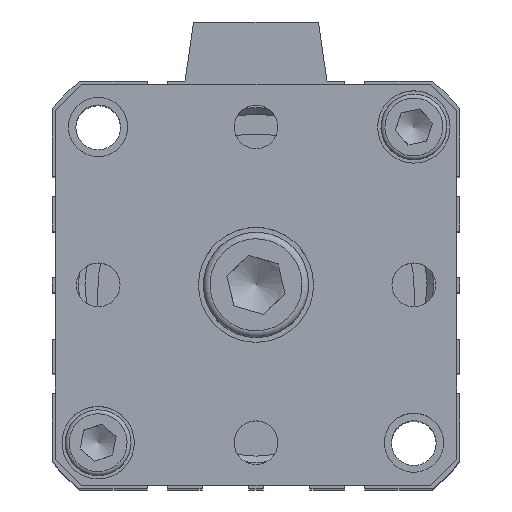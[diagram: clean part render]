
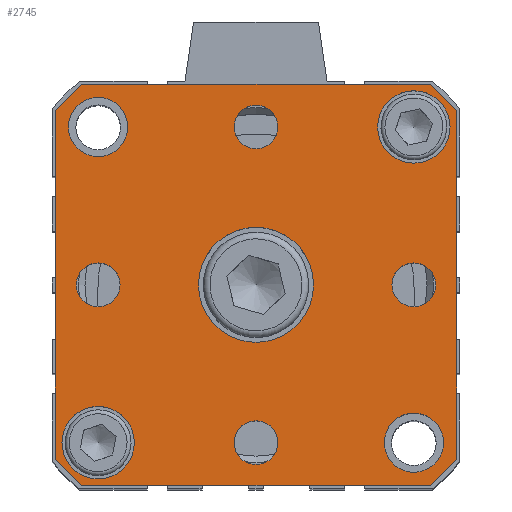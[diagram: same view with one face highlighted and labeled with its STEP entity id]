
A CAD part, top view. The second image highlights one B-rep face of the part: STEP entity #2745.
In plain terms, the highlighted planar face has unit normal (0, 0, 1).
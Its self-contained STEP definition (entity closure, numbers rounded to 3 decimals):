
#365=CARTESIAN_POINT('',(-37.557,28.294,111.6));
#366=VERTEX_POINT('',#365);
#367=CARTESIAN_POINT('',(-33.557,32.294,111.6));
#368=VERTEX_POINT('',#367);
#369=CARTESIAN_POINT('',(-37.557,28.294,111.6));
#370=DIRECTION('',(0.707,0.707,0.0));
#371=VECTOR('',#370,5.657);
#372=LINE('',#369,#371);
#373=EDGE_CURVE('',#366,#368,#372,.T.);
#417=CARTESIAN_POINT('',(19.443,32.294,111.6));
#418=VERTEX_POINT('',#417);
#419=CARTESIAN_POINT('',(-33.557,32.294,111.6));
#420=DIRECTION('',(1.0,0.0,0.0));
#421=VECTOR('',#420,53.);
#422=LINE('',#419,#421);
#423=EDGE_CURVE('',#368,#418,#422,.T.);
#440=CARTESIAN_POINT('',(23.443,28.294,111.6));
#441=VERTEX_POINT('',#440);
#442=CARTESIAN_POINT('',(19.443,32.294,111.6));
#443=DIRECTION('',(0.707,-0.707,0.0));
#444=VECTOR('',#443,5.657);
#445=LINE('',#442,#444);
#446=EDGE_CURVE('',#418,#441,#445,.T.);
#464=CARTESIAN_POINT('',(23.443,-24.706,111.6));
#465=VERTEX_POINT('',#464);
#466=CARTESIAN_POINT('',(19.443,-28.706,111.6));
#467=VERTEX_POINT('',#466);
#468=CARTESIAN_POINT('',(23.443,-24.706,111.6));
#469=DIRECTION('',(-0.707,-0.707,0.0));
#470=VECTOR('',#469,5.657);
#471=LINE('',#468,#470);
#472=EDGE_CURVE('',#465,#467,#471,.T.);
#496=CARTESIAN_POINT('',(-33.557,-28.706,111.6));
#497=VERTEX_POINT('',#496);
#498=CARTESIAN_POINT('',(19.443,-28.706,111.6));
#499=DIRECTION('',(-1.0,0.0,0.0));
#500=VECTOR('',#499,53.);
#501=LINE('',#498,#500);
#502=EDGE_CURVE('',#467,#497,#501,.T.);
#519=CARTESIAN_POINT('',(-37.557,-24.706,111.6));
#520=VERTEX_POINT('',#519);
#521=CARTESIAN_POINT('',(-33.557,-28.706,111.6));
#522=DIRECTION('',(-0.707,0.707,0.0));
#523=VECTOR('',#522,5.657);
#524=LINE('',#521,#523);
#525=EDGE_CURVE('',#497,#520,#524,.T.);
#592=CARTESIAN_POINT('',(1.693,1.794,111.6));
#593=VERTEX_POINT('',#592);
#594=CARTESIAN_POINT('',(-7.057,1.794,111.6));
#595=DIRECTION('',(0.0,0.0,-1.0));
#596=DIRECTION('',(1.0,0.0,0.0));
#597=AXIS2_PLACEMENT_3D('',#594,#595,#596);
#598=CIRCLE('',#597,8.75);
#599=EDGE_CURVE('',#593,#593,#598,.T.);
#711=CARTESIAN_POINT('',(-25.557,-22.206,111.6));
#712=VERTEX_POINT('',#711);
#713=CARTESIAN_POINT('',(-31.057,-22.206,111.6));
#714=DIRECTION('',(0.0,0.0,-1.0));
#715=DIRECTION('',(1.0,0.0,0.0));
#716=AXIS2_PLACEMENT_3D('',#713,#714,#715);
#717=CIRCLE('',#716,5.5);
#718=EDGE_CURVE('',#712,#712,#717,.T.);
#813=CARTESIAN_POINT('',(22.443,25.794,111.6));
#814=VERTEX_POINT('',#813);
#815=CARTESIAN_POINT('',(16.943,25.794,111.6));
#816=DIRECTION('',(0.0,0.0,-1.0));
#817=DIRECTION('',(1.0,0.0,0.0));
#818=AXIS2_PLACEMENT_3D('',#815,#816,#817);
#819=CIRCLE('',#818,5.5);
#820=EDGE_CURVE('',#814,#814,#819,.T.);
#890=CARTESIAN_POINT('',(20.266,1.794,111.6));
#891=VERTEX_POINT('',#890);
#892=CARTESIAN_POINT('',(16.943,1.794,111.6));
#893=DIRECTION('',(0.0,0.0,-1.0));
#894=DIRECTION('',(1.0,0.0,0.0));
#895=AXIS2_PLACEMENT_3D('',#892,#893,#894);
#896=CIRCLE('',#895,3.324);
#897=EDGE_CURVE('',#891,#891,#896,.T.);
#931=CARTESIAN_POINT('',(-3.734,-22.206,111.6));
#932=VERTEX_POINT('',#931);
#933=CARTESIAN_POINT('',(-7.057,-22.206,111.6));
#934=DIRECTION('',(0.0,0.0,-1.0));
#935=DIRECTION('',(1.0,0.0,0.0));
#936=AXIS2_PLACEMENT_3D('',#933,#934,#935);
#937=CIRCLE('',#936,3.324);
#938=EDGE_CURVE('',#932,#932,#937,.T.);
#972=CARTESIAN_POINT('',(-27.734,1.794,111.6));
#973=VERTEX_POINT('',#972);
#974=CARTESIAN_POINT('',(-31.057,1.794,111.6));
#975=DIRECTION('',(0.0,0.0,-1.0));
#976=DIRECTION('',(1.0,0.0,0.0));
#977=AXIS2_PLACEMENT_3D('',#974,#975,#976);
#978=CIRCLE('',#977,3.324);
#979=EDGE_CURVE('',#973,#973,#978,.T.);
#1013=CARTESIAN_POINT('',(-3.734,25.794,111.6));
#1014=VERTEX_POINT('',#1013);
#1015=CARTESIAN_POINT('',(-7.057,25.794,111.6));
#1016=DIRECTION('',(0.0,0.0,-1.0));
#1017=DIRECTION('',(1.0,0.0,0.0));
#1018=AXIS2_PLACEMENT_3D('',#1015,#1016,#1017);
#1019=CIRCLE('',#1018,3.324);
#1020=EDGE_CURVE('',#1014,#1014,#1019,.T.);
#2634=CARTESIAN_POINT('',(21.443,-22.206,111.6));
#2635=VERTEX_POINT('',#2634);
#2636=CARTESIAN_POINT('',(16.943,-22.206,111.6));
#2637=DIRECTION('',(0.0,0.0,-1.0));
#2638=DIRECTION('',(-1.0,0.0,0.0));
#2639=AXIS2_PLACEMENT_3D('',#2636,#2637,#2638);
#2640=CIRCLE('',#2639,4.5);
#2641=EDGE_CURVE('',#2635,#2635,#2640,.T.);
#2654=CARTESIAN_POINT('',(-26.557,25.794,111.6));
#2655=VERTEX_POINT('',#2654);
#2656=CARTESIAN_POINT('',(-31.057,25.794,111.6));
#2657=DIRECTION('',(0.0,0.0,-1.0));
#2658=DIRECTION('',(-1.0,0.0,0.0));
#2659=AXIS2_PLACEMENT_3D('',#2656,#2657,#2658);
#2660=CIRCLE('',#2659,4.5);
#2661=EDGE_CURVE('',#2655,#2655,#2660,.T.);
#2675=CARTESIAN_POINT('',(23.443,28.294,111.6));
#2676=DIRECTION('',(0.0,-1.0,0.0));
#2677=VECTOR('',#2676,53.);
#2678=LINE('',#2675,#2677);
#2679=EDGE_CURVE('',#441,#465,#2678,.T.);
#2694=CARTESIAN_POINT('',(-37.557,-24.706,111.6));
#2695=DIRECTION('',(0.0,1.0,0.0));
#2696=VECTOR('',#2695,53.);
#2697=LINE('',#2694,#2696);
#2698=EDGE_CURVE('',#520,#366,#2697,.T.);
#2703=CARTESIAN_POINT('',(-7.057,1.794,111.6));
#2704=DIRECTION('',(0.0,0.0,1.0));
#2705=DIRECTION('',(1.0,0.0,0.0));
#2706=AXIS2_PLACEMENT_3D('',#2703,#2704,#2705);
#2707=PLANE('',#2706);
#2708=ORIENTED_EDGE('',*,*,#373,.F.);
#2709=ORIENTED_EDGE('',*,*,#2698,.F.);
#2710=ORIENTED_EDGE('',*,*,#525,.F.);
#2711=ORIENTED_EDGE('',*,*,#502,.F.);
#2712=ORIENTED_EDGE('',*,*,#472,.F.);
#2713=ORIENTED_EDGE('',*,*,#2679,.F.);
#2714=ORIENTED_EDGE('',*,*,#446,.F.);
#2715=ORIENTED_EDGE('',*,*,#423,.F.);
#2716=EDGE_LOOP('',(#2708,#2709,#2710,#2711,#2712,#2713,#2714,#2715));
#2717=FACE_OUTER_BOUND('',#2716,.T.);
#2718=ORIENTED_EDGE('',*,*,#599,.T.);
#2719=EDGE_LOOP('',(#2718));
#2720=FACE_BOUND('',#2719,.T.);
#2721=ORIENTED_EDGE('',*,*,#718,.T.);
#2722=EDGE_LOOP('',(#2721));
#2723=FACE_BOUND('',#2722,.T.);
#2724=ORIENTED_EDGE('',*,*,#820,.T.);
#2725=EDGE_LOOP('',(#2724));
#2726=FACE_BOUND('',#2725,.T.);
#2727=ORIENTED_EDGE('',*,*,#897,.T.);
#2728=EDGE_LOOP('',(#2727));
#2729=FACE_BOUND('',#2728,.T.);
#2730=ORIENTED_EDGE('',*,*,#938,.T.);
#2731=EDGE_LOOP('',(#2730));
#2732=FACE_BOUND('',#2731,.T.);
#2733=ORIENTED_EDGE('',*,*,#979,.T.);
#2734=EDGE_LOOP('',(#2733));
#2735=FACE_BOUND('',#2734,.T.);
#2736=ORIENTED_EDGE('',*,*,#1020,.T.);
#2737=EDGE_LOOP('',(#2736));
#2738=FACE_BOUND('',#2737,.T.);
#2739=ORIENTED_EDGE('',*,*,#2641,.T.);
#2740=EDGE_LOOP('',(#2739));
#2741=FACE_BOUND('',#2740,.T.);
#2742=ORIENTED_EDGE('',*,*,#2661,.T.);
#2743=EDGE_LOOP('',(#2742));
#2744=FACE_BOUND('',#2743,.T.);
#2745=ADVANCED_FACE('',(#2717,#2720,#2723,#2726,#2729,#2732,#2735,#2738,#2741,#2744),#2707,.T.);
